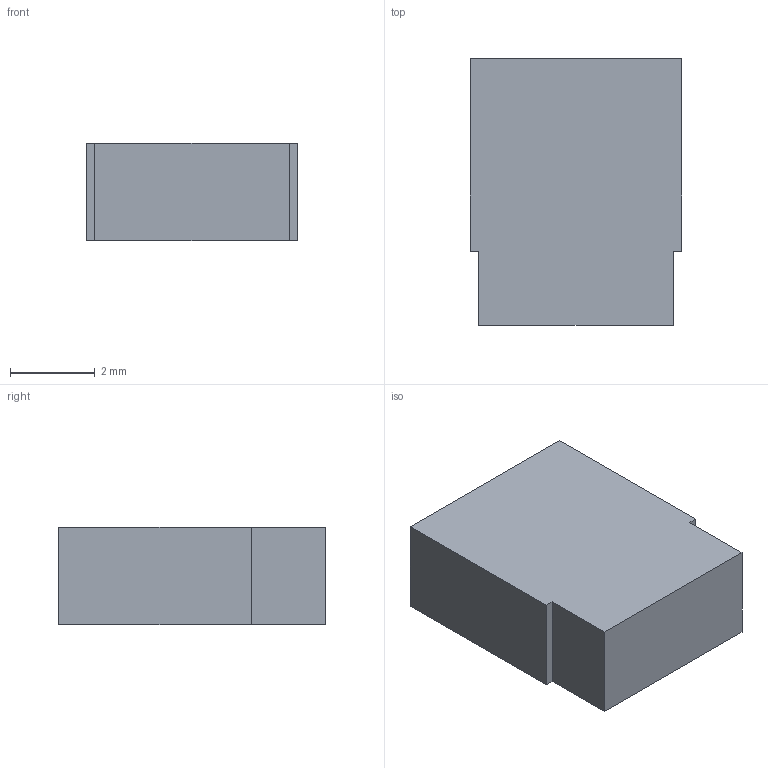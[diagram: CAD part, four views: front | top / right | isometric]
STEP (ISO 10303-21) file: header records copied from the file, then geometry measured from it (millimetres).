
FILE_DESCRIPTION((''),'2;1');
FILE_NAME('M7765_ASM','2009-08-05T',('WBOURNE'),(''),'PRO/ENGINEER BY PARAMETRIC TECHNOLOGY CORPORATION, 2008490','PRO/ENGINEER BY PARAMETRIC TECHNOLOGY CORPORATION, 2008490','');
FILE_SCHEMA(('CONFIG_CONTROL_DESIGN'));
Length unit declared in the file: millimetre
Products named in the file (3): M20-047; M20-023; M7765_ASM
Assembly tree (2 placements, depth 2):
  M7765_ASM
    M20-047
    M20-023
Bounding box: 5 x 6.3 x 2.3 mm (x, y, z)
Volume: 44.4 mm3; surface area: 261.3 mm2
Topology: 2 solids, 2 shells, 167 faces, 468 edges, 310 vertices
Faces by surface type: plane 140, cylinder 27
Entity records: 5414 total; most frequent: CARTESIAN_POINT 1090, ORIENTED_EDGE 936, DIRECTION 788, EDGE_CURVE 468, VECTOR 404, LINE 404, VERTEX_POINT 310, AXIS2_PLACEMENT_3D 192
